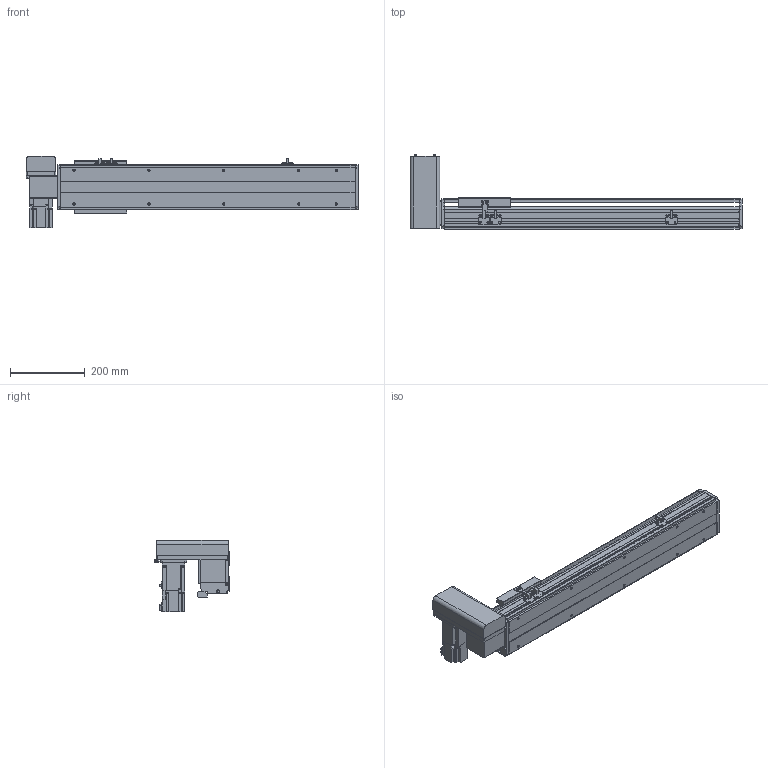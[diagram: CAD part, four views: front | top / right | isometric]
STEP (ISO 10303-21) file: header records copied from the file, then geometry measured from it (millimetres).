
FILE_DESCRIPTION( ( 'STEP AP214' ), '1' );
FILE_NAME( 'x:/temp/worker_27/temp/exporttempdir_6708_225_Vdu1V/format_0/PBS120-P40-S500-RU-T40-C1-N(0).stp', '2022-06-06T00:48:56', ( 'License CC BY-ND 4.0' ), ( 'CADENAS' ), ' ', 'PARTsolutions', ' ' );
FILE_SCHEMA( ( 'AUTOMOTIVE_DESIGN { 1 0 10303 214 1 1 1 1 }' ) );
Length unit declared in the file: millimetre
Products named in the file (7): PBS120-P40-S500-RU-T40-C1-N(0); _PBS120-S500()_body; _PBS120T-RU_motors; _T40-p1; _PBS120_sliser; _PBS120_plant; _PBS120_sensor
Assembly tree (8 placements, depth 2):
  PBS120-P40-S500-RU-T40-C1-N(0)
    _PBS120-S500()_body
    _PBS120T-RU_motors
    _T40-p1
    _PBS120_sliser
    _PBS120_plant
    _PBS120_sensor  x3
Bounding box: 886 x 198 x 189.7 mm (x, y, z)
Volume: 4333714.7 mm3; surface area: 804739.1 mm2
Topology: 8 solids, 8 shells, 810 faces, 2126 edges, 1369 vertices
Faces by surface type: plane 543, cylinder 223, cone 42, torus 2
Full cylindrical faces by diameter (mm): 2.459 x6, 3.242 x4, 4 x2, 4.134 x4, 4.5 x10, 4.917 x14, 5.5 x11, 6 x2, 6.6 x1, 7 x2, 8.5 x4, 9 x4, 12 x1, 14 x1, 30 x2, 40 x1, 50 x2
Entity records: 26820 total; most frequent: DIRECTION 3668, CARTESIAN_POINT 3623, ORIENTED_EDGE 3466, EDGE_CURVE 1733, LINE 1228, VECTOR 1228, AXIS2_PLACEMENT_3D 1220, VERTEX_POINT 1175
